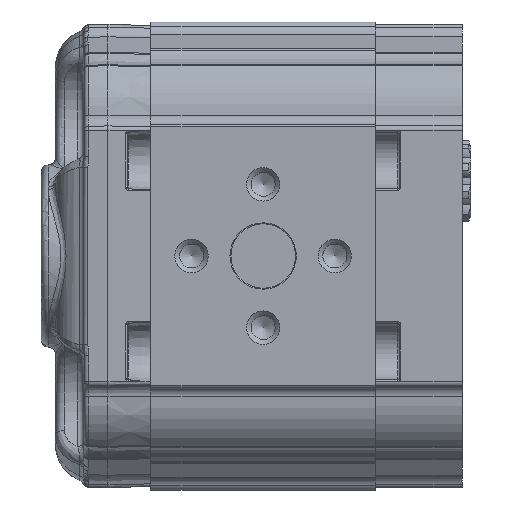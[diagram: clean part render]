
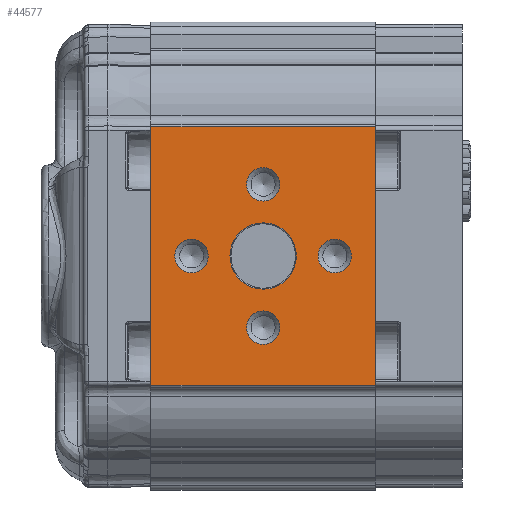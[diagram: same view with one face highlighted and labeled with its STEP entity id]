
A CAD part, left-side view. The second image highlights one B-rep face of the part: STEP entity #44577.
In plain terms, the highlighted planar face has unit normal (-1, 0, 0).
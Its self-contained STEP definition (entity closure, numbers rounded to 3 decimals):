
#1598=CIRCLE('',#47025,3.5);
#1599=CIRCLE('',#47026,3.5);
#1600=CIRCLE('',#47027,3.5);
#1601=CIRCLE('',#47028,3.5);
#1602=CIRCLE('',#47029,6.95);
#5113=LINE('',#60580,#6917);
#5114=LINE('',#60583,#6918);
#5115=LINE('',#60585,#6919);
#5116=LINE('',#60587,#6920);
#6917=VECTOR('',#51458,1000.);
#6918=VECTOR('',#51459,1000.);
#6919=VECTOR('',#51460,1000.);
#6920=VECTOR('',#51461,1000.);
#10796=ORIENTED_EDGE('',*,*,#19031,.T.);
#10797=ORIENTED_EDGE('',*,*,#19032,.T.);
#10798=ORIENTED_EDGE('',*,*,#19033,.T.);
#10799=ORIENTED_EDGE('',*,*,#19034,.T.);
#10800=ORIENTED_EDGE('',*,*,#19035,.T.);
#10801=ORIENTED_EDGE('',*,*,#19036,.F.);
#10802=ORIENTED_EDGE('',*,*,#19037,.F.);
#10803=ORIENTED_EDGE('',*,*,#19038,.T.);
#10804=ORIENTED_EDGE('',*,*,#19039,.T.);
#19031=EDGE_CURVE('',#23367,#23367,#1598,.F.);
#19032=EDGE_CURVE('',#23368,#23368,#1599,.F.);
#19033=EDGE_CURVE('',#23369,#23369,#1600,.F.);
#19034=EDGE_CURVE('',#23370,#23370,#1601,.F.);
#19035=EDGE_CURVE('',#23371,#23371,#1602,.F.);
#19036=EDGE_CURVE('',#23372,#23373,#5113,.T.);
#19037=EDGE_CURVE('',#23374,#23372,#5114,.T.);
#19038=EDGE_CURVE('',#23374,#23375,#5115,.T.);
#19039=EDGE_CURVE('',#23375,#23373,#5116,.T.);
#23367=VERTEX_POINT('',#60571);
#23368=VERTEX_POINT('',#60573);
#23369=VERTEX_POINT('',#60575);
#23370=VERTEX_POINT('',#60577);
#23371=VERTEX_POINT('',#60579);
#23372=VERTEX_POINT('',#60581);
#23373=VERTEX_POINT('',#60582);
#23374=VERTEX_POINT('',#60584);
#23375=VERTEX_POINT('',#60586);
#26191=EDGE_LOOP('',(#10796));
#26192=EDGE_LOOP('',(#10797));
#26193=EDGE_LOOP('',(#10798));
#26194=EDGE_LOOP('',(#10799));
#26195=EDGE_LOOP('',(#10800));
#26196=EDGE_LOOP('',(#10801,#10802,#10803,#10804));
#28402=FACE_BOUND('',#26191,.T.);
#28403=FACE_BOUND('',#26192,.T.);
#28404=FACE_BOUND('',#26193,.T.);
#28405=FACE_BOUND('',#26194,.T.);
#28406=FACE_BOUND('',#26195,.T.);
#28407=FACE_BOUND('',#26196,.T.);
#30149=PLANE('',#47024);
#44577=ADVANCED_FACE('',(#28402,#28403,#28404,#28405,#28406,#28407),#30149,
 .T.);
#47024=AXIS2_PLACEMENT_3D('',#60569,#51446,#51447);
#47025=AXIS2_PLACEMENT_3D('',#60570,#51448,#51449);
#47026=AXIS2_PLACEMENT_3D('',#60572,#51450,#51451);
#47027=AXIS2_PLACEMENT_3D('',#60574,#51452,#51453);
#47028=AXIS2_PLACEMENT_3D('',#60576,#51454,#51455);
#47029=AXIS2_PLACEMENT_3D('',#60578,#51456,#51457);
#51446=DIRECTION('',(-1.,0.,0.));
#51447=DIRECTION('',(0.,0.,1.));
#51448=DIRECTION('',(-1.,0.,0.));
#51449=DIRECTION('',(0.,0.,1.));
#51450=DIRECTION('',(-1.,0.,0.));
#51451=DIRECTION('',(0.,0.,1.));
#51452=DIRECTION('',(-1.,0.,0.));
#51453=DIRECTION('',(0.,0.,1.));
#51454=DIRECTION('',(-1.,0.,0.));
#51455=DIRECTION('',(0.,0.,1.));
#51456=DIRECTION('',(-1.,0.,0.));
#51457=DIRECTION('',(0.,0.,1.));
#51458=DIRECTION('',(0.,0.,-1.));
#51459=DIRECTION('',(0.,-1.,0.));
#51460=DIRECTION('',(0.,0.,-1.));
#51461=DIRECTION('',(0.,-1.,0.));
#60569=CARTESIAN_POINT('',(-43.,47.,27.048));
#60570=CARTESIAN_POINT('',(-43.,8.5,0.));
#60571=CARTESIAN_POINT('',(-43.,8.5,3.5));
#60572=CARTESIAN_POINT('',(-43.,38.5,0.));
#60573=CARTESIAN_POINT('',(-43.,38.5,3.5));
#60574=CARTESIAN_POINT('',(-43.,23.5,-15.));
#60575=CARTESIAN_POINT('',(-43.,23.5,-11.5));
#60576=CARTESIAN_POINT('',(-43.,23.5,15.));
#60577=CARTESIAN_POINT('',(-43.,23.5,18.5));
#60578=CARTESIAN_POINT('',(-43.,23.5,0.));
#60579=CARTESIAN_POINT('',(-43.,23.5,6.95));
#60580=CARTESIAN_POINT('',(-43.,0.,27.048));
#60581=CARTESIAN_POINT('',(-43.,0.,27.048));
#60582=CARTESIAN_POINT('',(-43.,0.,-27.048));
#60583=CARTESIAN_POINT('',(-43.,47.,27.048));
#60584=CARTESIAN_POINT('',(-43.,47.,27.048));
#60585=CARTESIAN_POINT('',(-43.,47.,27.048));
#60586=CARTESIAN_POINT('',(-43.,47.,-27.048));
#60587=CARTESIAN_POINT('',(-43.,47.,-27.048));
